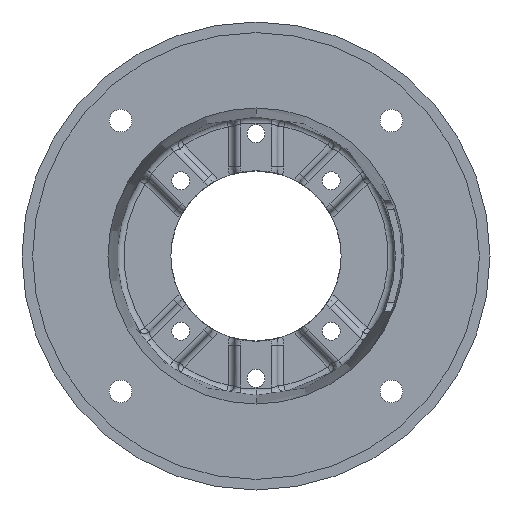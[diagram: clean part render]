
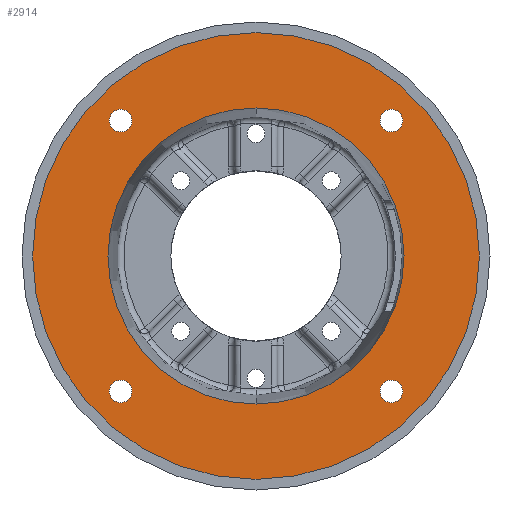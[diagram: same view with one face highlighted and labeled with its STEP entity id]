
A CAD part, front view. The second image highlights one B-rep face of the part: STEP entity #2914.
In plain terms, the highlighted planar face has unit normal (0, -1, 0).
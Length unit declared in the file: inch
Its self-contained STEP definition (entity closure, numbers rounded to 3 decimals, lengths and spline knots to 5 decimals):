
#1501 = EDGE_CURVE ( 'NONE', #1502, #1503, #4035, .T. ) ;
#1502 = VERTEX_POINT ( 'NONE', #4058 ) ;
#1503 = VERTEX_POINT ( 'NONE', #4059 ) ;
#1518 = VERTEX_POINT ( 'NONE', #4068 ) ;
#1528 = VERTEX_POINT ( 'NONE', #4167 ) ;
#1530 = EDGE_CURVE ( 'NONE', #1528, #1531, #4096, .T. ) ;
#1531 = VERTEX_POINT ( 'NONE', #4166 ) ;
#1539 = VERTEX_POINT ( 'NONE', #4053 ) ;
#1555 = VERTEX_POINT ( 'NONE', #4154 ) ;
#1557 = EDGE_CURVE ( 'NONE', #1555, #1558, #4153, .T. ) ;
#1558 = VERTEX_POINT ( 'NONE', #4148 ) ;
#1562 = EDGE_CURVE ( 'NONE', #1539, #1563, #4147, .T. ) ;
#1563 = VERTEX_POINT ( 'NONE', #4083 ) ;
#1564 = EDGE_CURVE ( 'NONE', #1518, #1565, #4082, .T. ) ;
#1565 = VERTEX_POINT ( 'NONE', #4077 ) ;
#2525 = VERTEX_POINT ( 'NONE', #5783 ) ;
#2561 = EDGE_CURVE ( 'NONE', #2562, #2525, #5915, .T. ) ;
#2562 = VERTEX_POINT ( 'NONE', #5935 ) ;
#2680 = EDGE_CURVE ( 'NONE', #2525, #2562, #6224, .T. ) ;
#2884 = EDGE_LOOP ( 'NONE', ( #2892, #2890 ) ) ;
#2889 = EDGE_CURVE ( 'NONE', #1563, #1539, #6763, .T. ) ;
#2890 = ORIENTED_EDGE ( 'NONE', *, *, #1562, .F. ) ;
#2892 = ORIENTED_EDGE ( 'NONE', *, *, #2889, .F. ) ;
#2910 = ORIENTED_EDGE ( 'NONE', *, *, #1501, .T. ) ;
#2911 = ORIENTED_EDGE ( 'NONE', *, *, #2931, .F. ) ;
#2912 = ORIENTED_EDGE ( 'NONE', *, *, #2922, .F. ) ;
#2914 = ADVANCED_FACE ( 'NONE', ( #6888, #6869, #6867, #6896, #6866, #6894 ), #6865, .T. ) ;
#2919 = EDGE_LOOP ( 'NONE', ( #2947, #2966 ) ) ;
#2921 = EDGE_LOOP ( 'NONE', ( #2911, #2962 ) ) ;
#2922 = EDGE_CURVE ( 'NONE', #1565, #1518, #6885, .T. ) ;
#2923 = ORIENTED_EDGE ( 'NONE', *, *, #2924, .T. ) ;
#2924 = EDGE_CURVE ( 'NONE', #1503, #1502, #6892, .T. ) ;
#2930 = ORIENTED_EDGE ( 'NONE', *, *, #2680, .T. ) ;
#2931 = EDGE_CURVE ( 'NONE', #1531, #1528, #6883, .T. ) ;
#2936 = EDGE_CURVE ( 'NONE', #1558, #1555, #6972, .T. ) ;
#2937 = EDGE_LOOP ( 'NONE', ( #2938, #2930 ) ) ;
#2938 = ORIENTED_EDGE ( 'NONE', *, *, #2561, .T. ) ;
#2942 = EDGE_LOOP ( 'NONE', ( #2912, #2944 ) ) ;
#2944 = ORIENTED_EDGE ( 'NONE', *, *, #1564, .F. ) ;
#2947 = ORIENTED_EDGE ( 'NONE', *, *, #2936, .F. ) ;
#2962 = ORIENTED_EDGE ( 'NONE', *, *, #1530, .F. ) ;
#2966 = ORIENTED_EDGE ( 'NONE', *, *, #1557, .F. ) ;
#2967 = EDGE_LOOP ( 'NONE', ( #2923, #2910 ) ) ;
#3999 = DIRECTION ( 'NONE',  ( 0., 0., -1. ) ) ;
#4000 = DIRECTION ( 'NONE',  ( 0., -1., 0. ) ) ;
#4001 = CARTESIAN_POINT ( 'NONE',  ( 0., 0.18, 0. ) ) ;
#4034 = AXIS2_PLACEMENT_3D ( 'NONE', #4001, #4000, #3999 ) ;
#4035 = CIRCLE ( 'NONE', #4034, 5.2505 ) ;
#4053 = CARTESIAN_POINT ( 'NONE',  ( -3.18198, 0.18, 3.44761 ) ) ;
#4058 = CARTESIAN_POINT ( 'NONE',  ( 0., 0.18, 5.2505 ) ) ;
#4059 = CARTESIAN_POINT ( 'NONE',  ( 0., 0.18, -5.2505 ) ) ;
#4068 = CARTESIAN_POINT ( 'NONE',  ( 3.18198, 0.18, 3.44761 ) ) ;
#4077 = CARTESIAN_POINT ( 'NONE',  ( 3.18198, 0.18, 2.91636 ) ) ;
#4078 = DIRECTION ( 'NONE',  ( 0., 0., -1. ) ) ;
#4079 = DIRECTION ( 'NONE',  ( 0., -1., 0. ) ) ;
#4080 = CARTESIAN_POINT ( 'NONE',  ( 3.18198, 0.18, 3.18198 ) ) ;
#4081 = AXIS2_PLACEMENT_3D ( 'NONE', #4080, #4079, #4078 ) ;
#4082 = CIRCLE ( 'NONE', #4081, 0.26562 ) ;
#4083 = CARTESIAN_POINT ( 'NONE',  ( -3.18198, 0.18, 2.91636 ) ) ;
#4092 = DIRECTION ( 'NONE',  ( 0., 0., -1. ) ) ;
#4093 = DIRECTION ( 'NONE',  ( 0., -1., 0. ) ) ;
#4094 = CARTESIAN_POINT ( 'NONE',  ( 3.18198, 0.18, -3.18198 ) ) ;
#4095 = AXIS2_PLACEMENT_3D ( 'NONE', #4094, #4093, #4092 ) ;
#4096 = CIRCLE ( 'NONE', #4095, 0.26562 ) ;
#4143 = DIRECTION ( 'NONE',  ( 0., 0., -1. ) ) ;
#4144 = DIRECTION ( 'NONE',  ( 0., -1., 0. ) ) ;
#4145 = CARTESIAN_POINT ( 'NONE',  ( -3.18198, 0.18, 3.18198 ) ) ;
#4146 = AXIS2_PLACEMENT_3D ( 'NONE', #4145, #4144, #4143 ) ;
#4147 = CIRCLE ( 'NONE', #4146, 0.26562 ) ;
#4148 = CARTESIAN_POINT ( 'NONE',  ( -3.18198, 0.18, -3.44761 ) ) ;
#4149 = DIRECTION ( 'NONE',  ( 0., 0., -1. ) ) ;
#4150 = DIRECTION ( 'NONE',  ( 0., -1., 0. ) ) ;
#4151 = CARTESIAN_POINT ( 'NONE',  ( -3.18198, 0.18, -3.18198 ) ) ;
#4152 = AXIS2_PLACEMENT_3D ( 'NONE', #4151, #4150, #4149 ) ;
#4153 = CIRCLE ( 'NONE', #4152, 0.26562 ) ;
#4154 = CARTESIAN_POINT ( 'NONE',  ( -3.18198, 0.18, -2.91636 ) ) ;
#4166 = CARTESIAN_POINT ( 'NONE',  ( 3.18198, 0.18, -3.44761 ) ) ;
#4167 = CARTESIAN_POINT ( 'NONE',  ( 3.18198, 0.18, -2.91636 ) ) ;
#5783 = CARTESIAN_POINT ( 'NONE',  ( 0., 0.18, 3.47973 ) ) ;
#5852 = CARTESIAN_POINT ( 'NONE',  ( 0., 0.18, 0. ) ) ;
#5915 = CIRCLE ( 'NONE', #5938, 3.47973 ) ;
#5935 = CARTESIAN_POINT ( 'NONE',  ( 0., 0.18, -3.47973 ) ) ;
#5936 = DIRECTION ( 'NONE',  ( 0., 0., -1. ) ) ;
#5937 = DIRECTION ( 'NONE',  ( 0., 1., 0. ) ) ;
#5938 = AXIS2_PLACEMENT_3D ( 'NONE', #5852, #5937, #5936 ) ;
#6220 = DIRECTION ( 'NONE',  ( 0., 0., -1. ) ) ;
#6221 = DIRECTION ( 'NONE',  ( 0., 1., 0. ) ) ;
#6222 = CARTESIAN_POINT ( 'NONE',  ( 0., 0.18, 0. ) ) ;
#6223 = AXIS2_PLACEMENT_3D ( 'NONE', #6222, #6221, #6220 ) ;
#6224 = CIRCLE ( 'NONE', #6223, 3.47973 ) ;
#6477 = DIRECTION ( 'NONE',  ( 0., 0., -1. ) ) ;
#6760 = DIRECTION ( 'NONE',  ( 0., -1., 0. ) ) ;
#6761 = CARTESIAN_POINT ( 'NONE',  ( -3.18198, 0.18, 3.18198 ) ) ;
#6762 = AXIS2_PLACEMENT_3D ( 'NONE', #6761, #6760, #6786 ) ;
#6763 = CIRCLE ( 'NONE', #6762, 0.26562 ) ;
#6786 = DIRECTION ( 'NONE',  ( 0., 0., -1. ) ) ;
#6865 = PLANE ( 'NONE',  #6868 ) ;
#6866 = FACE_OUTER_BOUND ( 'NONE', #2967, .T. ) ;
#6867 = FACE_BOUND ( 'NONE', #2921, .T. ) ;
#6868 = AXIS2_PLACEMENT_3D ( 'NONE', #6895, #6887, #6893 ) ;
#6869 = FACE_BOUND ( 'NONE', #2942, .T. ) ;
#6870 = DIRECTION ( 'NONE',  ( 0., 0., -1. ) ) ;
#6871 = DIRECTION ( 'NONE',  ( 0., -1., 0. ) ) ;
#6872 = CARTESIAN_POINT ( 'NONE',  ( 3.18198, 0.18, 3.18198 ) ) ;
#6873 = AXIS2_PLACEMENT_3D ( 'NONE', #6872, #6871, #6870 ) ;
#6876 = DIRECTION ( 'NONE',  ( 0., -1., 0. ) ) ;
#6877 = CARTESIAN_POINT ( 'NONE',  ( 3.18198, 0.18, -3.18198 ) ) ;
#6878 = AXIS2_PLACEMENT_3D ( 'NONE', #6877, #6876, #6477 ) ;
#6883 = CIRCLE ( 'NONE', #6878, 0.26562 ) ;
#6885 = CIRCLE ( 'NONE', #6873, 0.26562 ) ;
#6886 = CARTESIAN_POINT ( 'NONE',  ( 0., 0.18, 0. ) ) ;
#6887 = DIRECTION ( 'NONE',  ( 0., -1., 0. ) ) ;
#6888 = FACE_BOUND ( 'NONE', #2884, .T. ) ;
#6889 = DIRECTION ( 'NONE',  ( 0., 0., -1. ) ) ;
#6890 = DIRECTION ( 'NONE',  ( 0., -1., 0. ) ) ;
#6891 = AXIS2_PLACEMENT_3D ( 'NONE', #6886, #6890, #6889 ) ;
#6892 = CIRCLE ( 'NONE', #6891, 5.2505 ) ;
#6893 = DIRECTION ( 'NONE',  ( 0., 0., -1. ) ) ;
#6894 = FACE_BOUND ( 'NONE', #2937, .T. ) ;
#6895 = CARTESIAN_POINT ( 'NONE',  ( 0., 0.18, 0. ) ) ;
#6896 = FACE_BOUND ( 'NONE', #2919, .T. ) ;
#6902 = AXIS2_PLACEMENT_3D ( 'NONE', #6975, #6938, #6944 ) ;
#6938 = DIRECTION ( 'NONE',  ( 0., -1., 0. ) ) ;
#6944 = DIRECTION ( 'NONE',  ( 0., 0., -1. ) ) ;
#6972 = CIRCLE ( 'NONE', #6902, 0.26562 ) ;
#6975 = CARTESIAN_POINT ( 'NONE',  ( -3.18198, 0.18, -3.18198 ) ) ;
